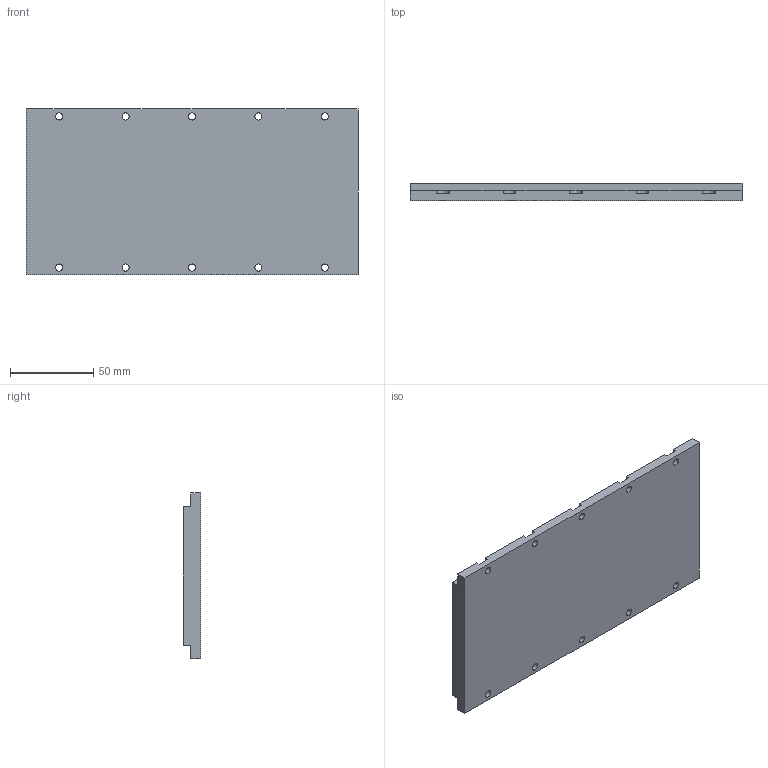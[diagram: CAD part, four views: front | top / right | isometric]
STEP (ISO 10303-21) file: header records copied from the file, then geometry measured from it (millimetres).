
FILE_DESCRIPTION (( 'STEP AP214' ), '1' );
FILE_NAME ('B-MJM080-L200.STEP', '2025-09-05T11:21:41', ( '' ), ( '' ), 'SwSTEP 2.0', 'SolidWorks 2016', '' );
FILE_SCHEMA (( 'AUTOMOTIVE_DESIGN' ));
Length unit declared in the file: millimetre
Products named in the file (1): B-MJM080-L200
Bounding box: 200 x 10.3 x 100 mm (x, y, z)
Volume: 190026.3 mm3; surface area: 46552.8 mm2
Topology: 1 solids, 1 shells, 75 faces, 219 edges, 146 vertices
Faces by surface type: plane 40, cylinder 35
Entity records: 2577 total; most frequent: CARTESIAN_POINT 441, DIRECTION 441, ORIENTED_EDGE 438, EDGE_CURVE 219, LINE 149, VECTOR 149, AXIS2_PLACEMENT_3D 146, VERTEX_POINT 146
